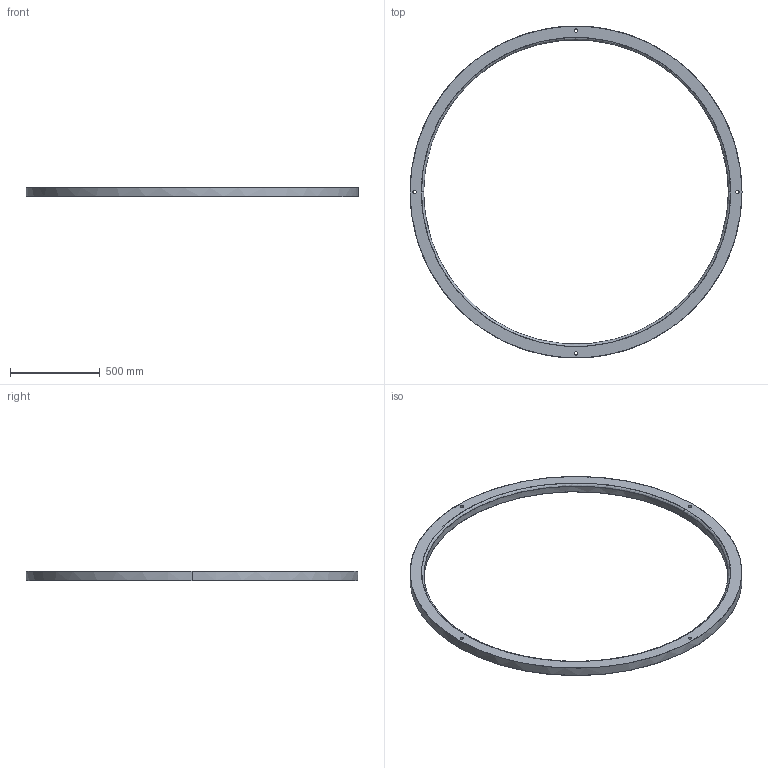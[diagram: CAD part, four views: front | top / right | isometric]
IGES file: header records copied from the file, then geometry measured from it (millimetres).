
Start section: C
Global section: file name: window_clamp.igs; native system:  By UGS Corp.; preprocessor: XPlus GENERIC/IGES 3.0; author: Author; organization: Title; date: 20110219.165819; units: millimetre
Bounding box: 1852.4 x 1850.09 x 50.8 mm (x, y, z)
Surface area: 1398183.8 mm2 (no closed solid volume)
Topology: 0 solids, 0 shells, 16 faces, 80 edges, 80 vertices
Faces by surface type: bspline 16
